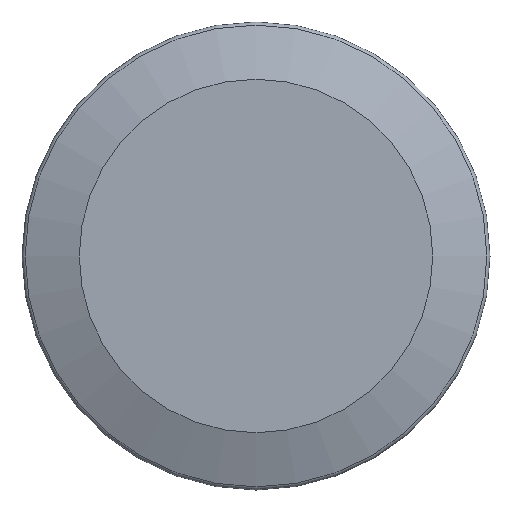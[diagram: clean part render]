
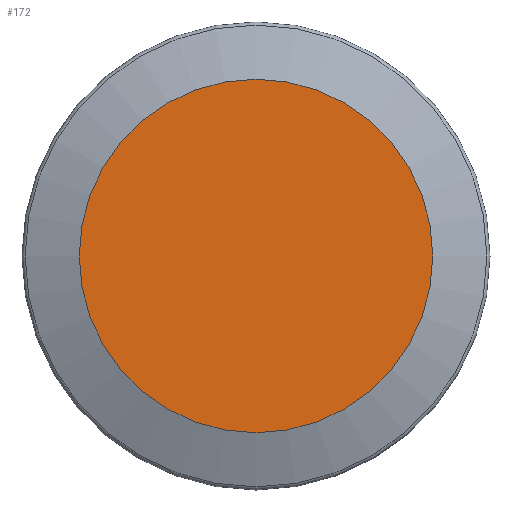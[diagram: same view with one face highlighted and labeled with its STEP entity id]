
A CAD part, left-side view. The second image highlights one B-rep face of the part: STEP entity #172.
In plain terms, the highlighted planar face has unit normal (-1, 0, 0).
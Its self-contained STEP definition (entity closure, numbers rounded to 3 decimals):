
#17=PLANE('',#223);
#40=FACE_OUTER_BOUND('',#52,.T.);
#52=EDGE_LOOP('',(#145));
#64=CIRCLE('',#211,29.271);
#78=VERTEX_POINT('',#310);
#95=EDGE_CURVE('',#78,#78,#64,.T.);
#145=ORIENTED_EDGE('',*,*,#95,.T.);
#172=ADVANCED_FACE('',(#40),#17,.F.);
#211=AXIS2_PLACEMENT_3D('',#312,#257,#258);
#223=AXIS2_PLACEMENT_3D('',#331,#284,#285);
#257=DIRECTION('center_axis',(-1.,0.,0.));
#258=DIRECTION('ref_axis',(0.,-1.,0.));
#284=DIRECTION('center_axis',(1.,0.,0.));
#285=DIRECTION('ref_axis',(0.,1.,0.));
#310=CARTESIAN_POINT('',(-19.791,-13.212,0.));
#312=CARTESIAN_POINT('Origin',(-19.791,16.06,0.));
#331=CARTESIAN_POINT('Origin',(-19.791,45.331,0.));
